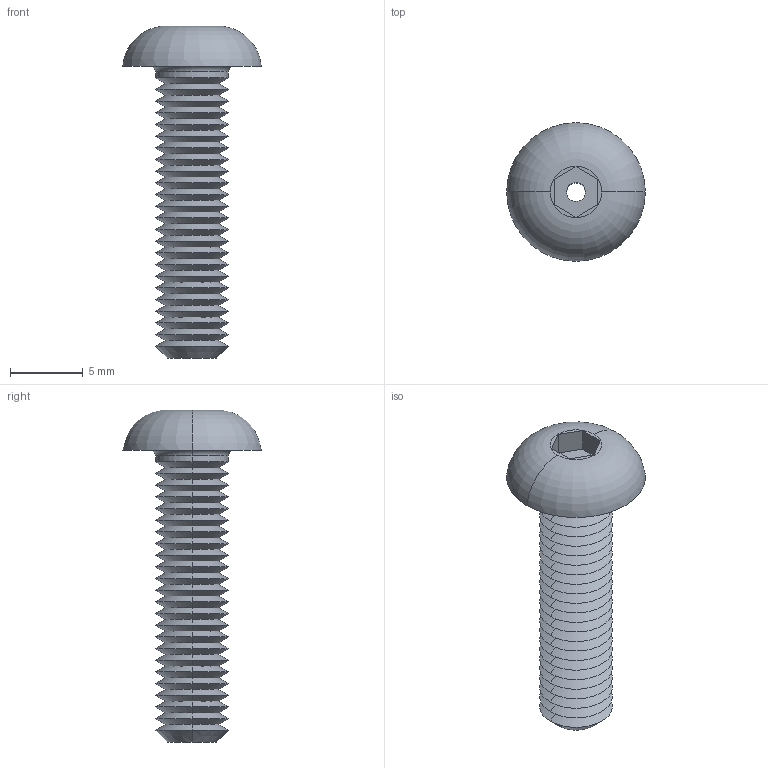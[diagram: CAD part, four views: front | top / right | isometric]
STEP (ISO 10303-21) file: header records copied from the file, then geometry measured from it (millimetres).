
FILE_DESCRIPTION (( 'STEP AP203' ), '1' );
FILE_NAME ('P0094.050-020-A2.step', '2019-07-12T16:54:08', ( '' ), ( '' ), 'SwSTEP 2.0', 'SolidWorks 2017', '' );
FILE_SCHEMA (( 'CONFIG_CONTROL_DESIGN' ));
Length unit declared in the file: millimetre
Products named in the file (1): P0094.050-020-A2
Bounding box: 9.5 x 9.5 x 22.75 mm (x, y, z)
Volume: 403.8 mm3; surface area: 794.2 mm2
Topology: 1 solids, 1 shells, 112 faces, 228 edges, 120 vertices
Faces by surface type: cone 94, plane 10, cylinder 4, torus 4
Entity records: 2937 total; most frequent: DIRECTION 566, CARTESIAN_POINT 461, ORIENTED_EDGE 456, EDGE_CURVE 228, AXIS2_PLACEMENT_3D 225, VERTEX_POINT 120, EDGE_LOOP 116, VECTOR 116
